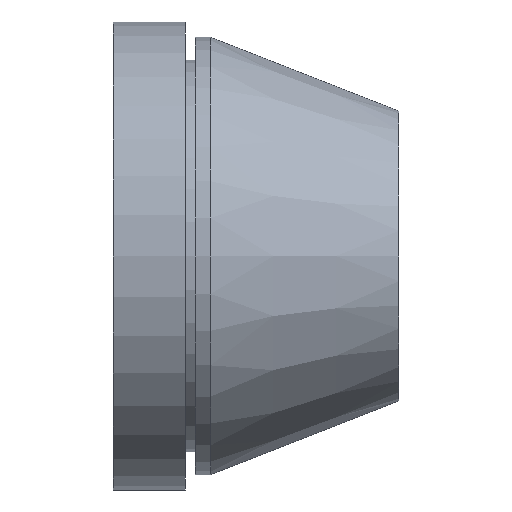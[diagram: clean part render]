
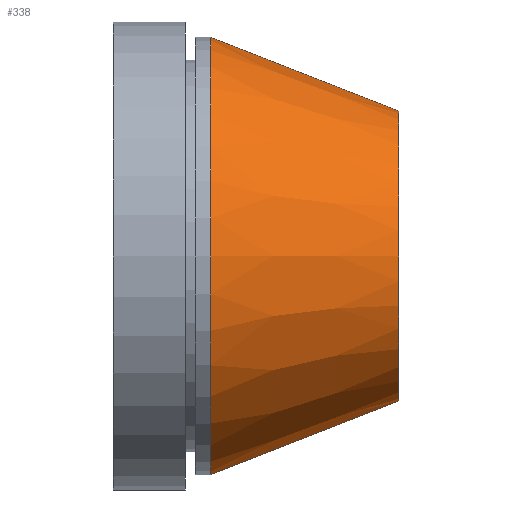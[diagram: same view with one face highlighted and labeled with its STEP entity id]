
A CAD part, left-side view. The second image highlights one B-rep face of the part: STEP entity #338.
In plain terms, the highlighted conical face has half-angle 21.4 degrees and reference radius 14.25 mm.
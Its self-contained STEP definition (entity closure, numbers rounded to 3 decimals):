
#23 = ORIENTED_EDGE ( 'NONE', *, *, #143, .F. ) ;
#24 = ORIENTED_EDGE ( 'NONE', *, *, #142, .F. ) ;
#25 = ORIENTED_EDGE ( 'NONE', *, *, #153, .T. ) ;
#26 = ORIENTED_EDGE ( 'NONE', *, *, #140, .T. ) ;
#38 = CIRCLE ( 'NONE', #119, 21.5 ) ;
#40 = CIRCLE ( 'NONE', #121, 14.25 ) ;
#41 = LINE ( 'NONE', #265, #44 ) ;
#44 = VECTOR ( 'NONE', #261, 1000. ) ;
#46 = LINE ( 'NONE', #259, #48 ) ;
#48 = VECTOR ( 'NONE', #266, 1000. ) ;
#63 = FACE_OUTER_BOUND ( 'NONE', #352, .T. ) ;
#79 = CONICAL_SURFACE ( 'NONE', #297, 14.25, 0.373 ) ;
#119 = AXIS2_PLACEMENT_3D ( 'NONE', #256, #269, #260 ) ;
#121 = AXIS2_PLACEMENT_3D ( 'NONE', #264, #263, #262 ) ;
#140 = EDGE_CURVE ( 'NONE', #379, #369, #38, .T. ) ;
#142 = EDGE_CURVE ( 'NONE', #365, #361, #40, .T. ) ;
#143 = EDGE_CURVE ( 'NONE', #361, #369, #41, .T. ) ;
#153 = EDGE_CURVE ( 'NONE', #365, #379, #46, .T. ) ;
#204 = DIRECTION ( 'NONE',  ( 0., 0., 1. ) ) ;
#206 = DIRECTION ( 'NONE',  ( 0., 1., 0. ) ) ;
#208 = CARTESIAN_POINT ( 'NONE',  ( 0., 0., 0. ) ) ;
#213 = CARTESIAN_POINT ( 'NONE',  ( 0., 0., -14.25 ) ) ;
#222 = CARTESIAN_POINT ( 'NONE',  ( 0., 0., 14.25 ) ) ;
#223 = CARTESIAN_POINT ( 'NONE',  ( 0., 18.5, -21.5 ) ) ;
#228 = CARTESIAN_POINT ( 'NONE',  ( 0., 18.5, 21.5 ) ) ;
#256 = CARTESIAN_POINT ( 'NONE',  ( 0., 18.5, 0. ) ) ;
#259 = CARTESIAN_POINT ( 'NONE',  ( 0., 0., 14.25 ) ) ;
#260 = DIRECTION ( 'NONE',  ( 0., 0., -1. ) ) ;
#261 = DIRECTION ( 'NONE',  ( 0., 0.931, -0.365 ) ) ;
#262 = DIRECTION ( 'NONE',  ( 0., 0., -1. ) ) ;
#263 = DIRECTION ( 'NONE',  ( 0., -1., 0. ) ) ;
#264 = CARTESIAN_POINT ( 'NONE',  ( 0., 0., 0. ) ) ;
#265 = CARTESIAN_POINT ( 'NONE',  ( 0., 0., -14.25 ) ) ;
#266 = DIRECTION ( 'NONE',  ( 0., 0.931, 0.365 ) ) ;
#269 = DIRECTION ( 'NONE',  ( 0., -1., 0. ) ) ;
#297 = AXIS2_PLACEMENT_3D ( 'NONE', #208, #206, #204 ) ;
#338 = ADVANCED_FACE ( 'NONE', ( #63 ), #79, .T. ) ;
#352 = EDGE_LOOP ( 'NONE', ( #23, #24, #25, #26 ) ) ;
#361 = VERTEX_POINT ( 'NONE', #213 ) ;
#365 = VERTEX_POINT ( 'NONE', #222 ) ;
#369 = VERTEX_POINT ( 'NONE', #223 ) ;
#379 = VERTEX_POINT ( 'NONE', #228 ) ;
